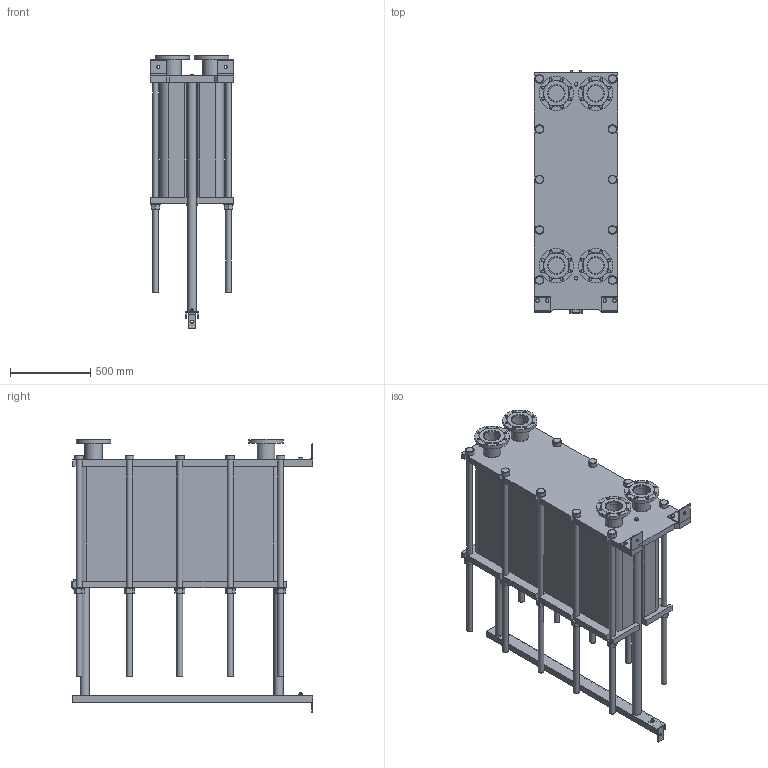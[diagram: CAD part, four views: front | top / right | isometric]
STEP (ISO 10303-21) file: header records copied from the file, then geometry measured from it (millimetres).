
FILE_DESCRIPTION(/* description */ (''),/* implementation_level */ '2;1');
FILE_NAME(/* name */ 'C:\Users\zhuro\Desktop\ENCO\TO\ЭН-04\ЭН-0,5-04-208-1.stp',/* time_stamp */ '2022-06-06T11:04:23+03:00',/* author */ ('zhuro'),/* organization */ (''),/* preprocessor_version */ 'ST-DEVELOPER v18.1',/* originating_system */ 'Autodesk Inventor 2022',/* authorisation */ '');
FILE_SCHEMA (('AUTOMOTIVE_DESIGN { 1 0 10303 214 3 1 1 }'));
Length unit declared in the file: millimetre
Products named in the file (1): ЭН-0,5-04-208-1
Bounding box: 520 x 1510 x 1709 mm (x, y, z)
Volume: 435644615.4 mm3; surface area: 10730192.2 mm2
Topology: 45 solids, 45 shells, 668 faces, 1611 edges, 1048 vertices
Faces by surface type: plane 457, cylinder 166, cone 39, torus 6
Full cylindrical faces by diameter (mm): 8 x4, 10 x2, 16 x8, 18 x35, 36 x25, 40 x2, 42 x1, 45 x4, 54 x10, 57 x2, 60 x10, 68 x2, 100 x4, 110 x8, 215 x4
Entity records: 23607 total; most frequent: CARTESIAN_POINT 7348, DIRECTION 3371, ORIENTED_EDGE 3142, EDGE_CURVE 1571, AXIS2_PLACEMENT_3D 1199, VERTEX_POINT 1044, LINE 973, VECTOR 973
